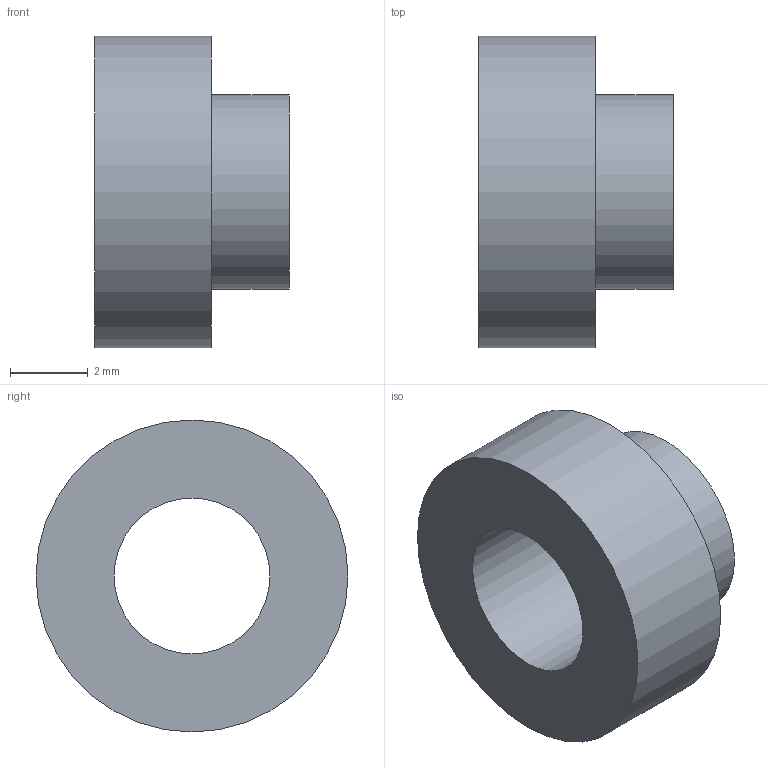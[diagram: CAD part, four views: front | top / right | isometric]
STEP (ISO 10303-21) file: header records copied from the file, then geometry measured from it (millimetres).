
FILE_DESCRIPTION(/* description */ ('STEP AP214'),/* implementation_level */ '2;1');
FILE_NAME(/* name */ 'Mounting Accessory GN 753.2-4-5-3-AE-NI',/* time_stamp */ '2024-12-09T13:59:38+01:00',/* author */ ('License CC BY-ND 4.0'),/* organization */ ('CADENAS'),/* preprocessor_version */ 'ST-DEVELOPER v19.3',/* originating_system */ 'PARTsolutions',/* authorisation */ ' ');
FILE_SCHEMA (('AUTOMOTIVE_DESIGN {1 0 10303 214 3 1 1}'));
Length unit declared in the file: millimetre
Products named in the file (1): Mounting Accessory GN 753.2-4-5-3-AE-NI
Bounding box: 5 x 8 x 8 mm (x, y, z)
Volume: 127.2 mm3; surface area: 245 mm2
Topology: 1 solids, 1 shells, 6 faces, 9 edges, 6 vertices
Faces by surface type: plane 3, cylinder 3
Full cylindrical faces by diameter (mm): 4 x1, 5 x1, 8 x1
Entity records: 158 total; most frequent: DIRECTION 26, CARTESIAN_POINT 19, AXIS2_PLACEMENT_3D 13, ORIENTED_EDGE 12, EDGE_LOOP 12, FACE_BOUND 12, EDGE_CURVE 6, VERTEX_POINT 6
